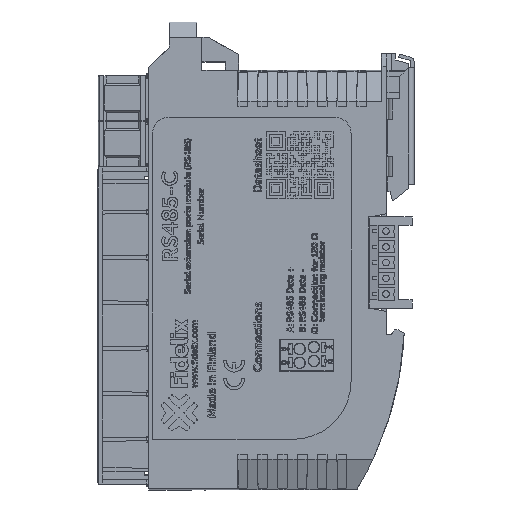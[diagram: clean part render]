
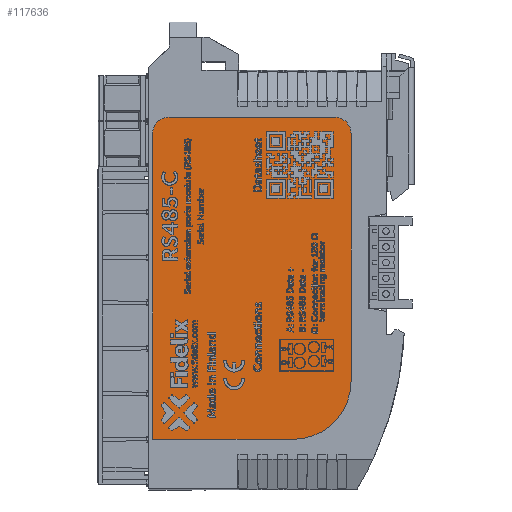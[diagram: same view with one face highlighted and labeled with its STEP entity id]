
A CAD part, left-side view. The second image highlights one B-rep face of the part: STEP entity #117636.
In plain terms, the highlighted planar face has unit normal (-1, 0, 0).
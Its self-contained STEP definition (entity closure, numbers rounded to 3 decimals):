
#4606=CIRCLE('',#124671,14.);
#4608=CIRCLE('',#124676,4.);
#4610=CIRCLE('',#124680,4.);
#8049=FACE_OUTER_BOUND('',#14348,.T.);
#14348=EDGE_LOOP('',(#90206,#90207,#90208,#90209,#90210,#90211,#90212));
#25339=LINE('',#207087,#38801);
#25343=LINE('',#207099,#38805);
#25346=LINE('',#207105,#38808);
#25350=LINE('',#207117,#38812);
#38801=VECTOR('',#143141,1000.);
#38805=VECTOR('',#143153,1000.);
#38808=VECTOR('',#143158,1000.);
#38812=VECTOR('',#143170,1000.);
#50537=VERTEX_POINT('',#207084);
#50538=VERTEX_POINT('',#207086);
#50540=VERTEX_POINT('',#207092);
#50542=VERTEX_POINT('',#207098);
#50544=VERTEX_POINT('',#207104);
#50546=VERTEX_POINT('',#207110);
#50548=VERTEX_POINT('',#207116);
#64520=EDGE_CURVE('',#50538,#50537,#25339,.T.);
#64523=EDGE_CURVE('',#50540,#50538,#4606,.T.);
#64526=EDGE_CURVE('',#50542,#50540,#25343,.T.);
#64529=EDGE_CURVE('',#50544,#50542,#25346,.T.);
#64532=EDGE_CURVE('',#50546,#50544,#4608,.T.);
#64535=EDGE_CURVE('',#50548,#50546,#25350,.T.);
#64538=EDGE_CURVE('',#50537,#50548,#4610,.T.);
#90206=ORIENTED_EDGE('',*,*,#64538,.T.);
#90207=ORIENTED_EDGE('',*,*,#64535,.T.);
#90208=ORIENTED_EDGE('',*,*,#64532,.T.);
#90209=ORIENTED_EDGE('',*,*,#64529,.T.);
#90210=ORIENTED_EDGE('',*,*,#64526,.T.);
#90211=ORIENTED_EDGE('',*,*,#64523,.T.);
#90212=ORIENTED_EDGE('',*,*,#64520,.T.);
#105817=PLANE('',#124682);
#117636=ADVANCED_FACE('',(#8049),#105817,.F.);
#124671=AXIS2_PLACEMENT_3D('',#207093,#143147,#143148);
#124676=AXIS2_PLACEMENT_3D('',#207111,#143164,#143165);
#124680=AXIS2_PLACEMENT_3D('',#207121,#143176,#143177);
#124682=AXIS2_PLACEMENT_3D('',#207123,#143180,#143181);
#143141=DIRECTION('',(0.,0.,1.));
#143147=DIRECTION('center_axis',(-1.,0.,0.));
#143148=DIRECTION('ref_axis',(0.,-1.,0.));
#143153=DIRECTION('',(0.,-1.,0.));
#143158=DIRECTION('',(0.,0.,-1.));
#143164=DIRECTION('center_axis',(-1.,0.,0.));
#143165=DIRECTION('ref_axis',(0.,1.,0.));
#143170=DIRECTION('',(0.,1.,0.));
#143176=DIRECTION('center_axis',(-1.,0.,0.));
#143177=DIRECTION('ref_axis',(0.,0.,
1.));
#143180=DIRECTION('center_axis',(1.,0.,0.));
#143181=DIRECTION('ref_axis',(0.,0.,
-1.));
#207084=CARTESIAN_POINT('',(-9.55,8.7,-27.02));
#207086=CARTESIAN_POINT('',(-9.55,8.7,-87.02));
#207087=CARTESIAN_POINT('',(-9.55,8.7,-87.02));
#207092=CARTESIAN_POINT('',(-9.55,22.7,-101.02));
#207093=CARTESIAN_POINT('Origin',(-9.55,22.7,-87.02));
#207098=CARTESIAN_POINT('',(-9.55,56.7,-101.02));
#207099=CARTESIAN_POINT('',(-9.55,56.7,-101.02));
#207104=CARTESIAN_POINT('',(-9.55,56.7,-27.02));
#207105=CARTESIAN_POINT('',(-9.55,56.7,-27.02));
#207110=CARTESIAN_POINT('',(-9.55,52.7,-23.02));
#207111=CARTESIAN_POINT('Origin',(-9.55,52.7,-27.02));
#207116=CARTESIAN_POINT('',(-9.55,12.7,-23.02));
#207117=CARTESIAN_POINT('',(-9.55,12.7,-23.02));
#207121=CARTESIAN_POINT('Origin',(-9.55,12.7,-27.02));
#207123=CARTESIAN_POINT('Origin',(-9.55,32.7,-62.02));
